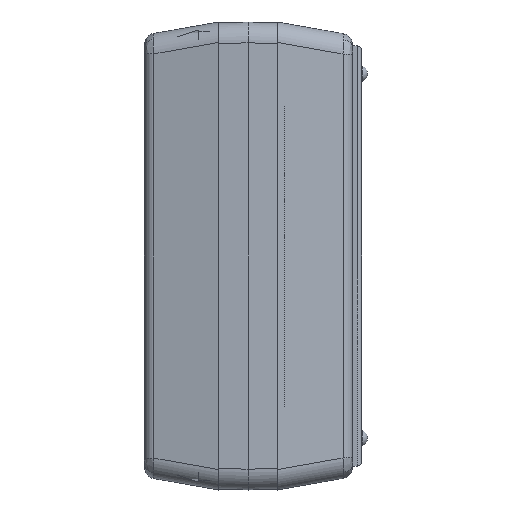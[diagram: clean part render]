
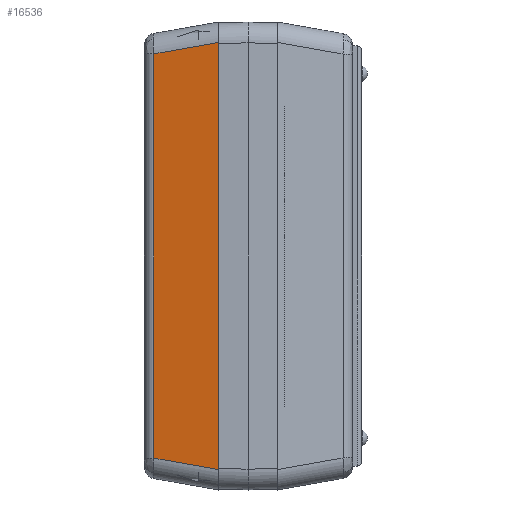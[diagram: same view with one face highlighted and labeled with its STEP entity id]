
A CAD part, left-side view. The second image highlights one B-rep face of the part: STEP entity #16536.
In plain terms, the highlighted planar face has unit normal (-0.985, 0.174, 0).
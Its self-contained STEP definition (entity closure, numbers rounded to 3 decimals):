
#91 = EDGE_CURVE ( 'NONE', #11548, #14184, #10886, .T. ) ;
#765 = AXIS2_PLACEMENT_3D ( 'NONE', #24000, #26176, #13235 ) ;
#1380 = EDGE_CURVE ( 'NONE', #11351, #16199, #11829, .T. ) ;
#1564 = EDGE_CURVE ( 'NONE', #14184, #11351, #17267, .T. ) ;
#1632 = EDGE_LOOP ( 'NONE', ( #12282, #18570, #24826, #3089 ) ) ;
#2076 = CARTESIAN_POINT ( 'NONE',  ( -92.825, 14.034, -43.794 ) ) ;
#3089 = ORIENTED_EDGE ( 'NONE', *, *, #1564, .T. ) ;
#6345 = DIRECTION ( 'NONE',  ( 0.171, 0.97, -0.171 ) ) ;
#6486 = CARTESIAN_POINT ( 'NONE',  ( -95.43, -0.736, -46.398 ) ) ;
#7722 = DIRECTION ( 'NONE',  ( 0., 0., -1. ) ) ;
#10886 = LINE ( 'NONE', #22869, #23045 ) ;
#11351 = VERTEX_POINT ( 'NONE', #14620 ) ;
#11548 = VERTEX_POINT ( 'NONE', #17769 ) ;
#11829 = LINE ( 'NONE', #25241, #26381 ) ;
#12282 = ORIENTED_EDGE ( 'NONE', *, *, #1380, .T. ) ;
#12290 = DIRECTION ( 'NONE',  ( 0., 0., 1. ) ) ;
#12505 = VECTOR ( 'NONE', #6345, 1000. ) ;
#12962 = DIRECTION ( 'NONE',  ( -0.171, -0.97, -0.171 ) ) ;
#13235 = DIRECTION ( 'NONE',  ( -0.174, -0.985, 0. ) ) ;
#14184 = VERTEX_POINT ( 'NONE', #2076 ) ;
#14620 = CARTESIAN_POINT ( 'NONE',  ( -95.3, 0., -46.268 ) ) ;
#15997 = CARTESIAN_POINT ( 'NONE',  ( -95.3, 0., 46.268 ) ) ;
#16199 = VERTEX_POINT ( 'NONE', #15997 ) ;
#16536 = ADVANCED_FACE ( 'NONE', ( #19892 ), #21837, .T. ) ;
#16579 = VECTOR ( 'NONE', #12962, 1000. ) ;
#17267 = LINE ( 'NONE', #6486, #16579 ) ;
#17769 = CARTESIAN_POINT ( 'NONE',  ( -92.825, 14.034, 43.794 ) ) ;
#18271 = LINE ( 'NONE', #19326, #12505 ) ;
#18570 = ORIENTED_EDGE ( 'NONE', *, *, #22365, .T. ) ;
#19326 = CARTESIAN_POINT ( 'NONE',  ( -92.462, 16.097, 43.43 ) ) ;
#19892 = FACE_OUTER_BOUND ( 'NONE', #1632, .T. ) ;
#21837 = PLANE ( 'NONE',  #765 ) ;
#22365 = EDGE_CURVE ( 'NONE', #16199, #11548, #18271, .T. ) ;
#22869 = CARTESIAN_POINT ( 'NONE',  ( -92.825, 14.034, -47.861 ) ) ;
#23045 = VECTOR ( 'NONE', #7722, 1000. ) ;
#24000 = CARTESIAN_POINT ( 'NONE',  ( -95.3, 0., -50.7 ) ) ;
#24826 = ORIENTED_EDGE ( 'NONE', *, *, #91, .T. ) ;
#25241 = CARTESIAN_POINT ( 'NONE',  ( -95.3, 0., -50.7 ) ) ;
#26176 = DIRECTION ( 'NONE',  ( -0.985, 0.174, 0. ) ) ;
#26381 = VECTOR ( 'NONE', #12290, 1000. ) ;
